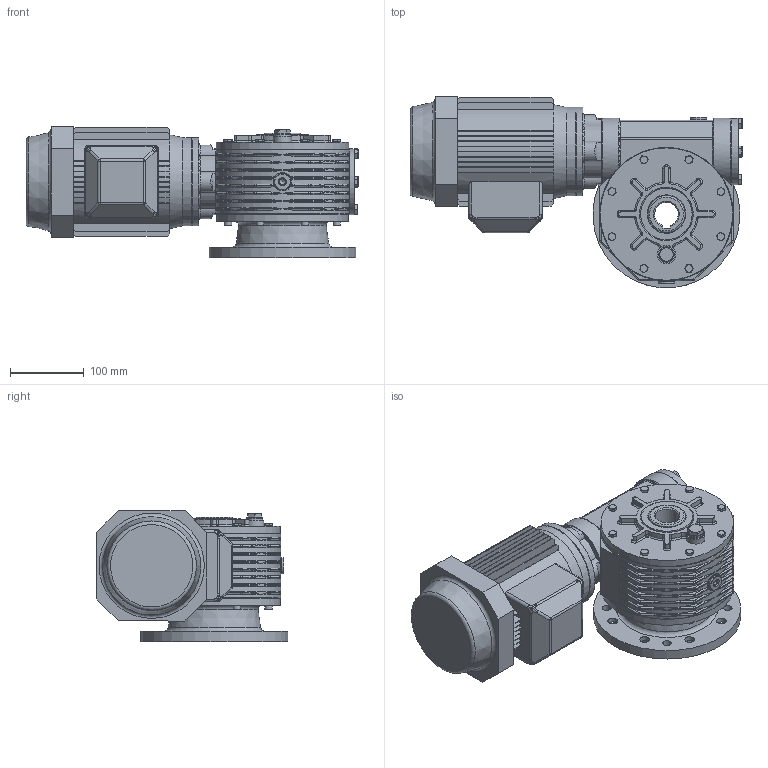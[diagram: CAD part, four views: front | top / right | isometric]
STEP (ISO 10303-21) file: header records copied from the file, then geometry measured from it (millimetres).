
FILE_DESCRIPTION((''),'2;1');
FILE_NAME('Y:\Archivi Inventor\Prog_01\GRAND_40\figurini\MRV40_SITO\80\MRV40_F2_80_B14.stp','2013-02-06T14:45:17',('tech3'),(''),'Autodesk Inventor 2013','Autodesk Inventor 2013','');
FILE_SCHEMA(('AUTOMOTIVE_DESIGN { 1 0 10303 214 1 1 1 1 }'));
Length unit declared in the file: millimetre
Products named in the file (20): mrv40_80_B14; MRV40 figurino; 0104001.A0 figurino; 0104009.A0 figurino; 0104028; 0104029; fig_mozzo corona. MRV-RV40cusc_conici; PARAOLIO 35x47x8; PARAOLIO 50x70x10; Guarnizione 3_8 GAS; Tappo 3_8 GAS_esagn_incsst; UNI 5931  M 8 x  25; FIG_0104002; FIG_0104003; DIN EN 24017 M6 x 20; DIN EN ISO 4762 M6 x 20; Tappo3_8 GAS; UNI 5739 M8 x 20; 0104006; motori B14 80
Assembly tree (45 placements, depth 3):
  mrv40_80_B14
    MRV40 figurino
      0104001.A0 figurino
      0104009.A0 figurino
      0104028  x2
      0104029  x2
      fig_mozzo corona. MRV-RV40cusc_conici
      PARAOLIO 35x47x8
      PARAOLIO 50x70x10  x2
      Guarnizione 3_8 GAS  x3
      Tappo 3_8 GAS_esagn_incsst  x2
      UNI 5931  M 8 x  25  x4
      FIG_0104002
      FIG_0104003
      DIN EN 24017 M6 x 20  x8
      DIN EN ISO 4762 M6 x 20  x8
      Tappo3_8 GAS
      UNI 5739 M8 x 20  x4
    0104006
    motori B14 80
Bounding box: 451.1 x 259.71 x 177.99 mm (x, y, z)
Volume: 7540427.1 mm3; surface area: 826413.3 mm2
Topology: 44 solids, 44 shells, 1854 faces, 4530 edges, 2775 vertices
Faces by surface type: plane 809, cylinder 569, cone 160, torus 157, bspline 155, sphere 4
Full cylindrical faces by diameter (mm): 2 x2, 4.917 x20, 6 x16, 6.5 x32, 7 x4, 8 x10, 8.5 x12, 8.75 x4, 8.88 x8, 10 x8, 11.5 x4, 11.63 x4, 13 x16, 13.046 x1, 14.95 x3, 16.3 x3, 16.5 x2, 19 x1, 22 x6, 25 x2, 39.605 x1, 43.5 x1, 47 x2, 50 x1, 55 x1, 56.381 x2, 62 x3, 65 x2, 70 x4, 80 x1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
Entity records: 52361 total; most frequent: CARTESIAN_POINT 17538, DIRECTION 7100, ORIENTED_EDGE 6806, EDGE_CURVE 3403, AXIS2_PLACEMENT_3D 2794, VERTEX_POINT 2211, EDGE_LOOP 1816, VECTOR 1512
